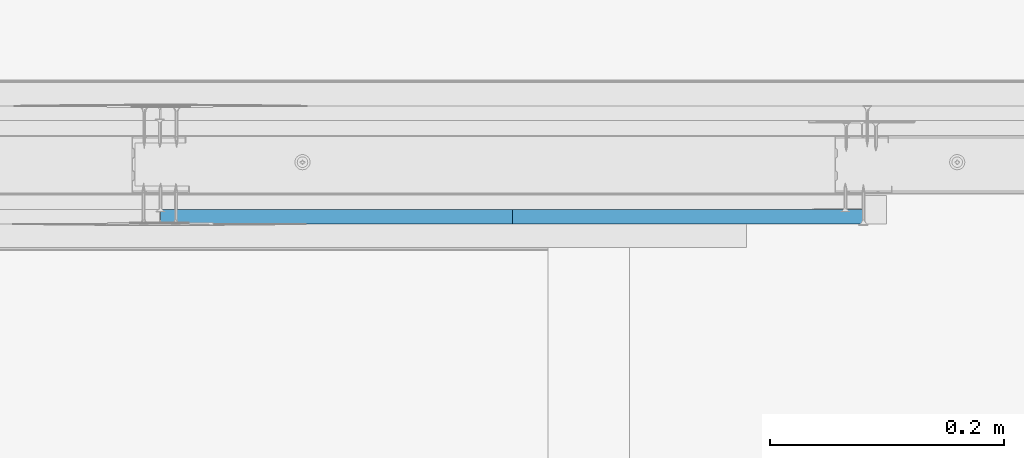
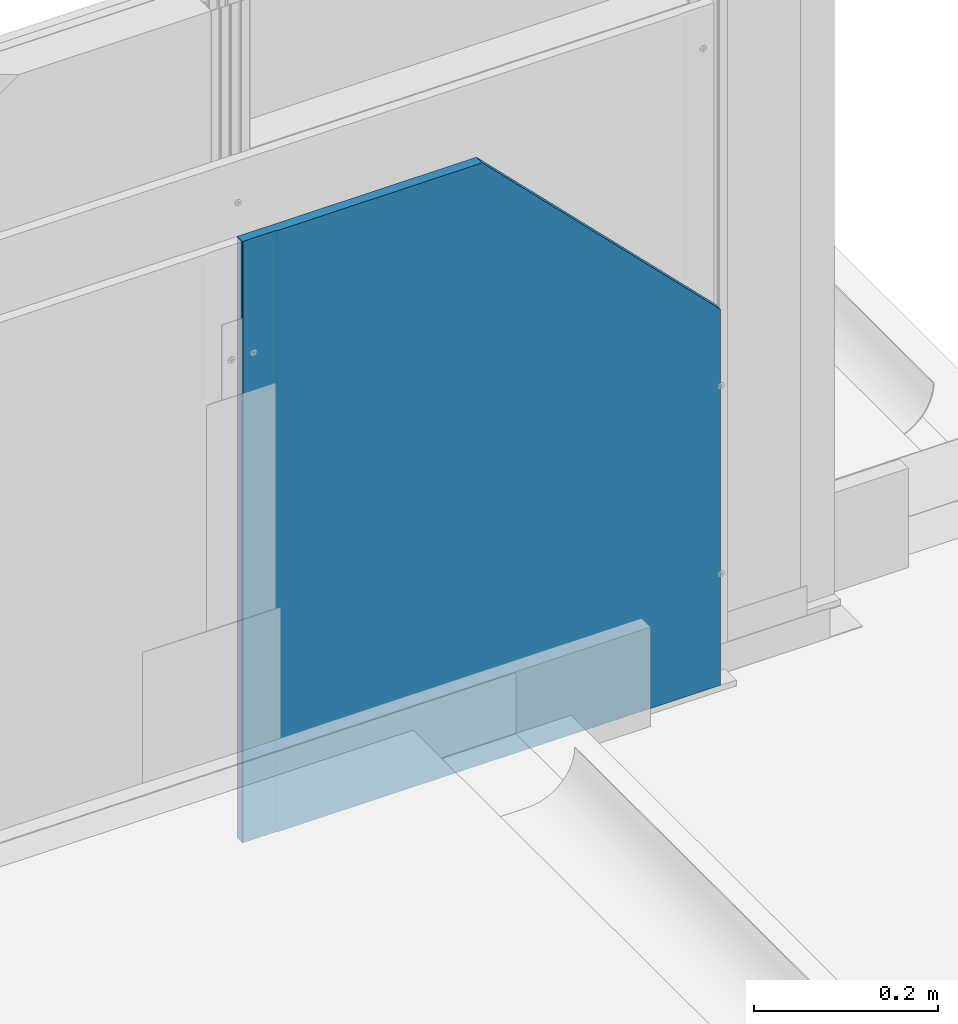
# One storey, part 2 of 37: 1 wall.
"""IFC2X3 building model written with IfcOpenShell, lengths in millimetres."""

from ifc_helpers import new_model, entity, si_unit, converted_unit, direction, frame, origin, origin_with_axes, place, context, project, spatial, faceted_brep, element, save


model = new_model("IFC2X3")

# Units and contexts
model_context = context("Model", 3, precision=1e-05, world=origin(), true_north=direction((0.0, 1.0, 0.0)))
ifc_project = project(units=[si_unit("LENGTHUNIT", "METRE", prefix="MILLI"), si_unit("AREAUNIT", "SQUARE_METRE"), si_unit("VOLUMEUNIT", "CUBIC_METRE"), converted_unit("PLANEANGLEUNIT", "DEGREE", entity("IfcPlaneAngleMeasure", 0.01745), si_unit("PLANEANGLEUNIT", "RADIAN"), dimensions=[0, 0, 0, 0, 0, 0, 0]), si_unit("SOLIDANGLEUNIT", "STERADIAN"), si_unit("MASSUNIT", "GRAM"), si_unit("TIMEUNIT", "SECOND"), si_unit("THERMODYNAMICTEMPERATUREUNIT", "DEGREE_CELSIUS"), si_unit("LUMINOUSINTENSITYUNIT", "LUMEN")], contexts=[model_context])

# Site, building, storey
site_placement = place(None, origin_with_axes())
site = spatial("IfcSite", under=ifc_project, at=site_placement, Name="Default Site", CompositionType="ELEMENT")
building_placement = place(site_placement, origin_with_axes())
building = spatial("IfcBuilding", under=site, at=building_placement, Name="Default Building", CompositionType="ELEMENT")
storey_placement = place(building_placement, origin_with_axes())
storey = spatial("IfcBuildingStorey", under=building, at=storey_placement, Name="Default Building Storey", CompositionType="ELEMENT", Elevation=0.0)

# Wall
wall_placement = place(storey_placement, frame((2647.242430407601, 1958.680077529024, 1059.999999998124), z_axis=(0.0, 0.0, 1.0), x_axis=(1.0, 0.0, 0.0)))
element("IfcWall", 1, at=wall_placement, inside=storey, Name="Płyta gipsowo-kartonowa RIGIPS PRO (4PRO™)", context=model_context, shape_type="Brep", body=[
    faceted_brep([(601.187218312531, -12.49999999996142, -550.0000000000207), (301.1872183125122, -12.49999999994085, -250.0000000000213), (301.1872183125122, 3.97051280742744e-11, -250.0000000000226), (601.1872183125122, 5.919673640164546e-11, -550.000000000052), (601.1872183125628, -12.49999999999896, -1050.001581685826), (44.99999999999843, -12.50000000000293, -1050.001581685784), (44.99999999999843, -12.50000000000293, -249.9999999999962), (601.187218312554, 2.526689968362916e-12, -1050.001581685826), (285.9232783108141, 4.475850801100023e-11, -250.0000000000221), (40.99999999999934, -11.50000000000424, -249.9999999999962), (0.9999999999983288, -11.5000000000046, -249.9999999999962), (0.7411809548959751, -11.46592582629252, -249.9999999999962), (0.4999999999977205, -11.3660254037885, -249.9999999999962), (0.29289321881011, -11.20710678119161, -249.9999999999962), (0.1339745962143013, -11.00000000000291, -249.9999999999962), (0.03407417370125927, -10.7588190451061, -249.9999999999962), (-3.97051280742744e-12, -10.50000000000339, -249.9999999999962), (0.0, 0.0, -249.9999999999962), (40.99999999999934, -11.50000000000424, -1050.001581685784), (0.9999999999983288, -11.5000000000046, -1050.001581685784), (0.7411809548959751, -11.46592582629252, -1050.001581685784), (0.4999999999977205, -11.3660254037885, -1050.001581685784), (0.29289321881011, -11.20710678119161, -1050.001581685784), (0.1339745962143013, -11.00000000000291, -1050.001581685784), (0.03407417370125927, -10.7588190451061, -1050.001581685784), (-3.97051280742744e-12, -10.50000000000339, -1050.001581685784), (0.0, 0.0, -1050.001581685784)], [[[0, 1, 2, 3]], [[0, 4, 5, 6, 1]], [[3, 7, 4, 0]], [[8, 2, 1, 6, 9, 10, 11, 12, 13, 14, 15, 16, 17]], [[2, 8, 3]], [[9, 6, 5, 18]], [[10, 9, 18, 19]], [[11, 10, 19, 20]], [[12, 11, 20, 21]], [[13, 12, 21, 22]], [[14, 13, 22, 23]], [[15, 14, 23, 24]], [[16, 15, 24, 25]], [[17, 16, 25, 26]], [[26, 7, 3, 8, 17]], [[5, 4, 7, 26, 25, 24, 23, 22, 21, 20, 19, 18]]]),
])

save(model, "model.ifc")
